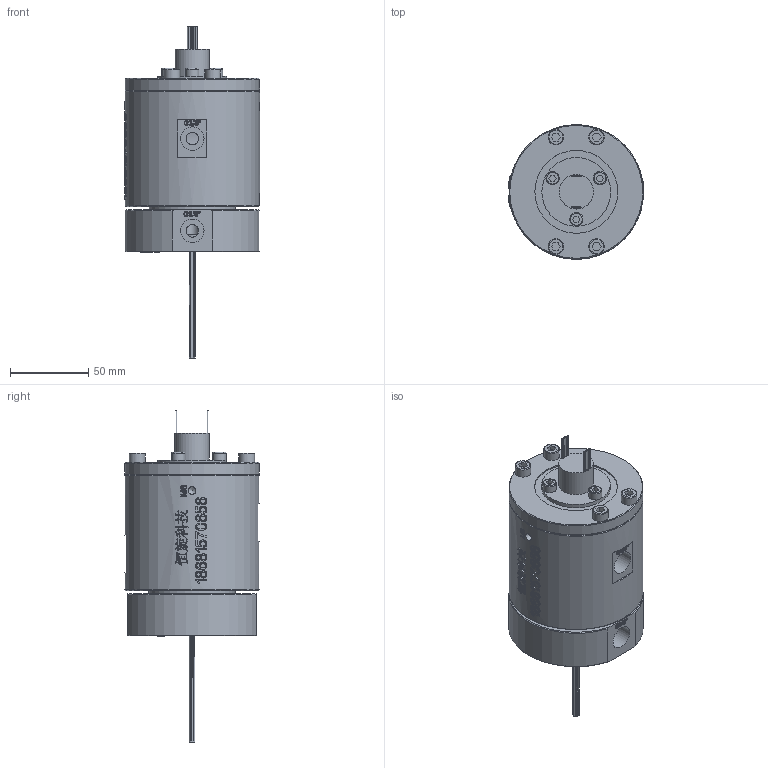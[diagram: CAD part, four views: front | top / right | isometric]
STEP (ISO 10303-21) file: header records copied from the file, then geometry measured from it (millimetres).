
FILE_DESCRIPTION(/* description */ (''),/* implementation_level */ '2;1');
FILE_NAME(/* name */ 'HQ0203-12M-3D模型.stp',/* time_stamp */ '2025-09-02T09:19:31+08:00',/* author */ (''),/* organization */ (''),/* preprocessor_version */ 'ST-DEVELOPER v16.7',/* originating_system */ 'SIEMENS PLM Software NX 12.0',/* authorisation */ '');
FILE_SCHEMA (('AUTOMOTIVE_DESIGN { 1 0 10303 214 3 1 1 1 }'));
Products named in the file (1): Admi1B40D54Exq09
Bounding box: 86.52 x 86 x 212.3 mm (x, y, z)
Volume: 630321.5 mm3; surface area: 69397.7 mm2
Topology: 1 solids, 6 shells, 1380 faces, 3700 edges, 2468 vertices
Faces by surface type: extrusion 730, plane 473, cylinder 91, bspline 58, cone 21, torus 7
Full cylindrical faces by diameter (mm): 0.8 x24, 5 x9, 5.5 x3, 7.8 x1, 8 x6, 8.5 x3, 9.4 x2, 9.5 x2, 10 x4, 15 x4, 17 x1, 22 x1, 33 x1, 33.5 x2, 44 x2, 51 x1, 52 x1, 53 x1, 55 x1, 65 x1, 86 x2
Entity records: 51871 total; most frequent: CARTESIAN_POINT 23172, ORIENTED_EDGE 7104, EDGE_CURVE 3552, B_SPLINE_CURVE_WITH_KNOTS 3425, DIRECTION 3094, VERTEX_POINT 2425, EDGE_LOOP 1625, ADVANCED_FACE 1378
